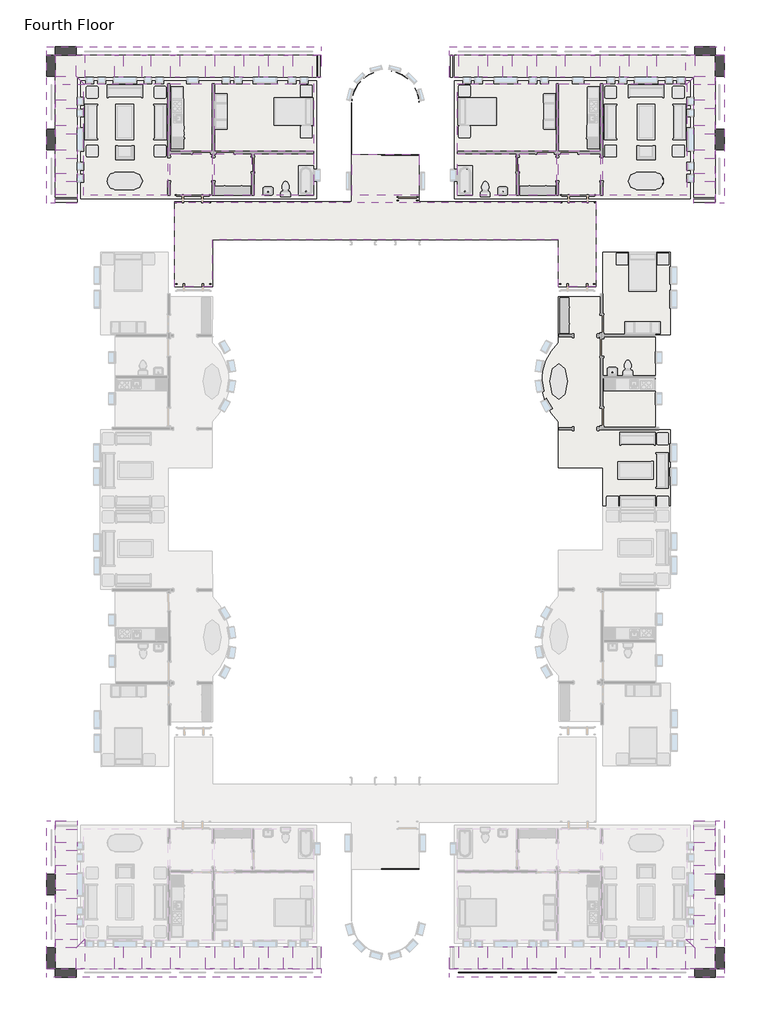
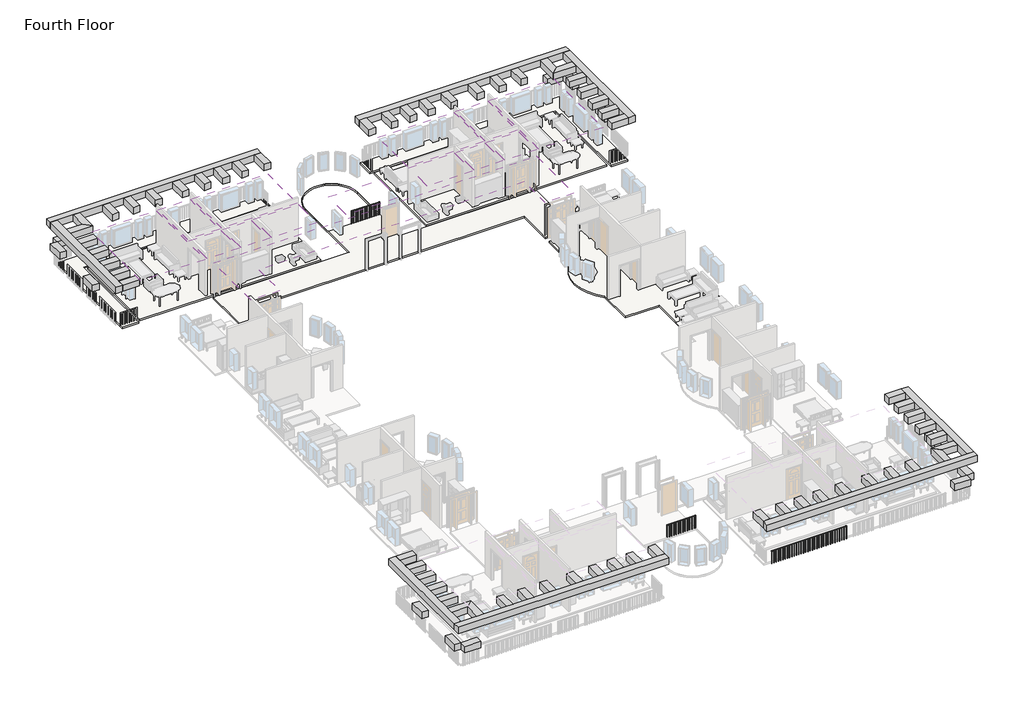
# One storey, part 4 of 6: 80 beams, 14 coverings, 6 slabs, 3 railings.
"""IFC4 building model written with IfcOpenShell, lengths in millimetres."""

from ifc_helpers import new_model, si_unit, point, frame, frame_2d, origin, place, context, project, spatial, polyline, circle_curve, trimmed, segment, composite_curve, outline, extrude, transform, mapped, element, save
from components import concrete_rectangular_beam_18_x_18_bf4eecd6, concrete_rectangular_beam_18_x_18_b74f126b, concrete_rectangular_beam_18_x_18_d2ae2ec1, concrete_rectangular_beam_18_x_18_4ba7165a, handrail_rectangular_335e7b33, handrail_rectangular_67155e74, handrail_rectangular_940b1af8

model = new_model("IFC4")

# Units and contexts
model_context = context("Model", 3, world=origin())
ifc_project = project(units=[si_unit("LENGTHUNIT", "METRE", prefix="MILLI")], contexts=[model_context])

# Site, building, storey
site = spatial("IfcSite", under=ifc_project)
building = spatial("IfcBuilding", under=site)
storey = spatial("IfcBuildingStorey", under=building, Name="Fourth Floor", Elevation=9144.0)

# Beams
placement = place(None, origin())
element("IfcBeam", 1, ObjectType="Concrete-Rectangular Beam : 18 x 18", at=placement, inside=storey, context=model_context, shape_type="SweptSolid", body=[
    extrude(outline(polyline([(569.9410437, -33825.9683133), (1027.1410437, -34283.1683133), (1027.1410437, -35349.9683133), (569.9410437, -35349.9683133), (569.9410437, -33825.9683133)])), frame((0.0, 0.0, 11734.8), z_axis=(0.0, 0.0, 1.0), x_axis=(1.0, 0.0, 0.0)), (0.0, 0.0, 1.0), 457.2),
])
element("IfcBeam", 2, ObjectType="Concrete-Rectangular Beam : 18 x 18", at=placement, inside=storey, context=model_context, shape_type="SweptSolid", body=[
    extrude(outline(polyline([(1027.1410437, -34283.1683133), (569.9410437, -33825.9683133), (2093.9410437, -33825.9683133), (2093.9410437, -34283.1683133), (1027.1410437, -34283.1683133)])), frame((0.0, 0.0, 11734.8), z_axis=(0.0, 0.0, 1.0), x_axis=(1.0, 0.0, 0.0)), (0.0, 0.0, 1.0), 457.2),
])
element("IfcBeam", 3, ObjectType="Concrete-Rectangular Beam : 18 x 18", at=placement, inside=storey, context=model_context, shape_type="SweptSolid", body=[
    extrude(outline(polyline([(-30897.4839563, -34283.1683133), (-30440.2839563, -33825.9683133), (-30440.2839563, -35349.9683133), (-30897.4839563, -35349.9683133), (-30897.4839563, -34283.1683133)])), frame((0.0, 0.0, 11734.8), z_axis=(0.0, 0.0, 1.0), x_axis=(1.0, 0.0, 0.0)), (0.0, 0.0, 1.0), 457.2),
])
element("IfcBeam", 4, ObjectType="Concrete-Rectangular Beam : 18 x 18", at=placement, inside=storey, context=model_context, shape_type="SweptSolid", body=[
    extrude(outline(polyline([(-30440.2839563, -33825.9683133), (-30897.4839563, -34283.1683133), (-31964.2839563, -34283.1683133), (-31964.2839563, -33825.9683133), (-30440.2839563, -33825.9683133)])), frame((0.0, 0.0, 11734.8), z_axis=(0.0, 0.0, 1.0), x_axis=(1.0, 0.0, 0.0)), (0.0, 0.0, 1.0), 457.2),
])
element("IfcBeam", 5, ObjectType="Concrete-Rectangular Beam : 18 x 18", at=placement, inside=storey, context=model_context, shape_type="SweptSolid", body=[
    extrude(outline(polyline([(1027.1410437, 10674.8316867), (569.9410437, 10217.6316867), (569.9410437, 11741.6316867), (1027.1410437, 11741.6316867), (1027.1410437, 10674.8316867)])), frame((0.0, 0.0, 11734.8), z_axis=(0.0, 0.0, 1.0), x_axis=(1.0, 0.0, 0.0)), (0.0, 0.0, 1.0), 457.2),
])
element("IfcBeam", 6, ObjectType="Concrete-Rectangular Beam : 18 x 18", at=placement, inside=storey, context=model_context, shape_type="SweptSolid", body=[
    extrude(outline(polyline([(569.9410437, 10217.6316867), (1027.1410437, 10674.8316867), (2093.9410437, 10674.8316867), (2093.9410437, 10217.6316867), (569.9410437, 10217.6316867)])), frame((0.0, 0.0, 11734.8), z_axis=(0.0, 0.0, 1.0), x_axis=(1.0, 0.0, 0.0)), (0.0, 0.0, 1.0), 457.2),
])
element("IfcBeam", 7, ObjectType="Concrete-Rectangular Beam : 18 x 18", at=placement, inside=storey, context=model_context, shape_type="SweptSolid", body=[
    extrude(outline(polyline([(-30440.2839563, 10217.6316867), (-30897.4839563, 10674.8316867), (-30897.4839563, 11741.6316867), (-30440.2839563, 11741.6316867), (-30440.2839563, 10217.6316867)])), frame((0.0, 0.0, 11734.8), z_axis=(0.0, 0.0, 1.0), x_axis=(1.0, 0.0, 0.0)), (0.0, 0.0, 1.0), 457.2),
])
element("IfcBeam", 8, ObjectType="Concrete-Rectangular Beam : 18 x 18", at=placement, inside=storey, context=model_context, shape_type="SweptSolid", body=[
    extrude(outline(polyline([(-30897.4839563, 10674.8316867), (-30440.2839563, 10217.6316867), (-31964.2839563, 10217.6316867), (-31964.2839563, 10674.8316867), (-30897.4839563, 10674.8316867)])), frame((0.0, 0.0, 11734.8), z_axis=(0.0, 0.0, 1.0), x_axis=(1.0, 0.0, 0.0)), (0.0, 0.0, 1.0), 457.2),
])
concrete_rectangular_beam_18_x_18_shape = concrete_rectangular_beam_18_x_18_bf4eecd6(model_context)
element("IfcBeam", 9, ObjectType="Concrete-Rectangular Beam : 18 x 18", at=placement, inside=storey, context=model_context, shape_type="MappedRepresentation", body=[
    mapped(concrete_rectangular_beam_18_x_18_shape, transform((2322.5410437, -31539.9683133, 11963.4), x_axis=(0.0, 1.0, 0.0), y_axis=(-1.0, 0.0, 0.0), z_axis=(0.0, 0.0, 1.0))),
])
element("IfcBeam", 10, ObjectType="Concrete-Rectangular Beam : 18 x 18", at=placement, inside=storey, context=model_context, shape_type="MappedRepresentation", body=[
    mapped(concrete_rectangular_beam_18_x_18_shape, transform((-32192.8839563, -31539.9683133, 11963.4), x_axis=(0.0, 1.0, 0.0), y_axis=(-1.0, 0.0, 0.0), z_axis=(0.0, 0.0, 1.0))),
])
element("IfcBeam", 11, ObjectType="Concrete-Rectangular Beam : 18 x 18", at=placement, inside=storey, context=model_context, shape_type="MappedRepresentation", body=[
    mapped(concrete_rectangular_beam_18_x_18_shape, transform((2322.5410437, 7931.6316867, 11963.4), x_axis=(0.0, -1.0, 0.0), y_axis=(1.0, 0.0, 0.0), z_axis=(0.0, 0.0, 1.0))),
])
element("IfcBeam", 12, ObjectType="Concrete-Rectangular Beam : 18 x 18", at=placement, inside=storey, context=model_context, shape_type="MappedRepresentation", body=[
    mapped(concrete_rectangular_beam_18_x_18_shape, transform((-32192.8839563, 7931.6316867, 11963.4), x_axis=(0.0, -1.0, 0.0), y_axis=(1.0, 0.0, 0.0), z_axis=(0.0, 0.0, 1.0))),
])
concrete_rectangular_beam_18_x_18_2_shape = concrete_rectangular_beam_18_x_18_b74f126b(model_context)
element("IfcBeam", 13, ObjectType="Concrete-Rectangular Beam : 18 x 18", at=placement, inside=storey, context=model_context, shape_type="MappedRepresentation", body=[
    mapped(concrete_rectangular_beam_18_x_18_2_shape, transform((-4535.4589563, -35578.5683133, 11963.4), x_axis=(1.0, 0.0, 0.0), y_axis=(0.0, 1.0, 0.0), z_axis=(0.0, 0.0, 1.0))),
])
element("IfcBeam", 14, ObjectType="Concrete-Rectangular Beam : 18 x 18", at=placement, inside=storey, context=model_context, shape_type="MappedRepresentation", body=[
    mapped(concrete_rectangular_beam_18_x_18_2_shape, transform((-25334.8839563, -35578.5683133, 11963.4), x_axis=(-1.0, 0.0, 0.0), y_axis=(0.0, -1.0, 0.0), z_axis=(0.0, 0.0, 1.0))),
])
element("IfcBeam", 15, ObjectType="Concrete-Rectangular Beam : 18 x 18", at=placement, inside=storey, context=model_context, shape_type="MappedRepresentation", body=[
    mapped(concrete_rectangular_beam_18_x_18_2_shape, transform((-4535.4589563, 11970.2316867, 11963.4), x_axis=(1.0, 0.0, 0.0), y_axis=(0.0, 1.0, 0.0), z_axis=(0.0, 0.0, 1.0))),
])
element("IfcBeam", 16, ObjectType="Concrete-Rectangular Beam : 18 x 18", at=placement, inside=storey, context=model_context, shape_type="MappedRepresentation", body=[
    mapped(concrete_rectangular_beam_18_x_18_2_shape, transform((-25334.8839563, 11970.2316867, 11963.4), x_axis=(-1.0, 0.0, 0.0), y_axis=(0.0, -1.0, 0.0), z_axis=(0.0, 0.0, 1.0))),
])
concrete_rectangular_beam_18_x_18_3_shape = concrete_rectangular_beam_18_x_18_d2ae2ec1(model_context)
element("IfcBeam", 17, ObjectType="Concrete-Rectangular Beam : 18 x 18", at=placement, inside=storey, context=model_context, shape_type="MappedRepresentation", body=[
    mapped(concrete_rectangular_beam_18_x_18_3_shape, transform((-11393.4589563, -34791.1683133, 11963.4), x_axis=(0.0, 1.0, 0.0), y_axis=(-1.0, 0.0, 0.0), z_axis=(0.0, 0.0, 1.0))),
])
element("IfcBeam", 18, ObjectType="Concrete-Rectangular Beam : 18 x 18", at=placement, inside=storey, context=model_context, shape_type="MappedRepresentation", body=[
    mapped(concrete_rectangular_beam_18_x_18_3_shape, transform((-5894.3589563, -34791.1683133, 11963.4), x_axis=(0.0, 1.0, 0.0), y_axis=(-1.0, 0.0, 0.0), z_axis=(0.0, 0.0, 1.0))),
])
element("IfcBeam", 19, ObjectType="Concrete-Rectangular Beam : 18 x 18", at=placement, inside=storey, context=model_context, shape_type="MappedRepresentation", body=[
    mapped(concrete_rectangular_beam_18_x_18_3_shape, transform((-4090.9589563, -34791.1683133, 11963.4), x_axis=(0.0, 1.0, 0.0), y_axis=(-1.0, 0.0, 0.0), z_axis=(0.0, 0.0, 1.0))),
])
element("IfcBeam", 20, ObjectType="Concrete-Rectangular Beam : 18 x 18", at=placement, inside=storey, context=model_context, shape_type="MappedRepresentation", body=[
    mapped(concrete_rectangular_beam_18_x_18_3_shape, transform((1535.1410437, -31514.5683133, 11963.4), x_axis=(-1.0, 0.0, 0.0), y_axis=(0.0, -1.0, 0.0), z_axis=(0.0, 0.0, 1.0))),
])
element("IfcBeam", 21, ObjectType="Concrete-Rectangular Beam : 18 x 18", at=placement, inside=storey, context=model_context, shape_type="MappedRepresentation", body=[
    mapped(concrete_rectangular_beam_18_x_18_3_shape, transform((1535.1410437, -30244.5683133, 11963.4), x_axis=(-1.0, 0.0, 0.0), y_axis=(0.0, -1.0, 0.0), z_axis=(0.0, 0.0, 1.0))),
])
element("IfcBeam", 22, ObjectType="Concrete-Rectangular Beam : 18 x 18", at=placement, inside=storey, context=model_context, shape_type="MappedRepresentation", body=[
    mapped(concrete_rectangular_beam_18_x_18_3_shape, transform((1535.1410437, -27958.5683133, 11963.4), x_axis=(-1.0, 0.0, 0.0), y_axis=(0.0, -1.0, 0.0), z_axis=(0.0, 0.0, 1.0))),
])
element("IfcBeam", 23, ObjectType="Concrete-Rectangular Beam : 18 x 18", at=placement, inside=storey, context=model_context, shape_type="MappedRepresentation", body=[
    mapped(concrete_rectangular_beam_18_x_18_3_shape, transform((-8643.9089563, -34791.1683133, 11963.4), x_axis=(0.0, 1.0, 0.0), y_axis=(-1.0, 0.0, 0.0), z_axis=(0.0, 0.0, 1.0))),
])
element("IfcBeam", 24, ObjectType="Concrete-Rectangular Beam : 18 x 18", at=placement, inside=storey, context=model_context, shape_type="MappedRepresentation", body=[
    mapped(concrete_rectangular_beam_18_x_18_3_shape, transform((-9904.3839563, -34791.1683133, 11963.4), x_axis=(0.0, 1.0, 0.0), y_axis=(-1.0, 0.0, 0.0), z_axis=(0.0, 0.0, 1.0))),
])
element("IfcBeam", 25, ObjectType="Concrete-Rectangular Beam : 18 x 18", at=placement, inside=storey, context=model_context, shape_type="MappedRepresentation", body=[
    mapped(concrete_rectangular_beam_18_x_18_3_shape, transform((-7383.4339563, -34791.1683133, 11963.4), x_axis=(0.0, 1.0, 0.0), y_axis=(-1.0, 0.0, 0.0), z_axis=(0.0, 0.0, 1.0))),
])
element("IfcBeam", 26, ObjectType="Concrete-Rectangular Beam : 18 x 18", at=placement, inside=storey, context=model_context, shape_type="MappedRepresentation", body=[
    mapped(concrete_rectangular_beam_18_x_18_3_shape, transform((-1182.6589563, -34791.1683133, 11963.4), x_axis=(0.0, 1.0, 0.0), y_axis=(-1.0, 0.0, 0.0), z_axis=(0.0, 0.0, 1.0))),
])
element("IfcBeam", 27, ObjectType="Concrete-Rectangular Beam : 18 x 18", at=placement, inside=storey, context=model_context, shape_type="MappedRepresentation", body=[
    mapped(concrete_rectangular_beam_18_x_18_3_shape, transform((-2601.8839563, -34791.1683133, 11963.4), x_axis=(0.0, 1.0, 0.0), y_axis=(-1.0, 0.0, 0.0), z_axis=(0.0, 0.0, 1.0))),
])
element("IfcBeam", 28, ObjectType="Concrete-Rectangular Beam : 18 x 18", at=placement, inside=storey, context=model_context, shape_type="MappedRepresentation", body=[
    mapped(concrete_rectangular_beam_18_x_18_3_shape, transform((1535.1410437, -32835.3683133, 11963.4), x_axis=(-1.0, 0.0, 0.0), y_axis=(0.0, -1.0, 0.0), z_axis=(0.0, 0.0, 1.0))),
])
element("IfcBeam", 29, ObjectType="Concrete-Rectangular Beam : 18 x 18", at=placement, inside=storey, context=model_context, shape_type="MappedRepresentation", body=[
    mapped(concrete_rectangular_beam_18_x_18_3_shape, transform((1535.1410437, -29050.7683133, 11963.4), x_axis=(-1.0, 0.0, 0.0), y_axis=(0.0, -1.0, 0.0), z_axis=(0.0, 0.0, 1.0))),
])
element("IfcBeam", 30, ObjectType="Concrete-Rectangular Beam : 18 x 18", at=placement, inside=storey, context=model_context, shape_type="MappedRepresentation", body=[
    mapped(concrete_rectangular_beam_18_x_18_3_shape, transform((-18476.8839563, -34791.1683133, 11963.4), x_axis=(0.0, 1.0, 0.0), y_axis=(-1.0, 0.0, 0.0), z_axis=(0.0, 0.0, 1.0))),
])
element("IfcBeam", 31, ObjectType="Concrete-Rectangular Beam : 18 x 18", at=placement, inside=storey, context=model_context, shape_type="MappedRepresentation", body=[
    mapped(concrete_rectangular_beam_18_x_18_3_shape, transform((-23975.9839563, -34791.1683133, 11963.4), x_axis=(0.0, 1.0, 0.0), y_axis=(-1.0, 0.0, 0.0), z_axis=(0.0, 0.0, 1.0))),
])
element("IfcBeam", 32, ObjectType="Concrete-Rectangular Beam : 18 x 18", at=placement, inside=storey, context=model_context, shape_type="MappedRepresentation", body=[
    mapped(concrete_rectangular_beam_18_x_18_3_shape, transform((-25779.3839563, -34791.1683133, 11963.4), x_axis=(0.0, 1.0, 0.0), y_axis=(-1.0, 0.0, 0.0), z_axis=(0.0, 0.0, 1.0))),
])
element("IfcBeam", 33, ObjectType="Concrete-Rectangular Beam : 18 x 18", at=placement, inside=storey, context=model_context, shape_type="MappedRepresentation", body=[
    mapped(concrete_rectangular_beam_18_x_18_3_shape, transform((-31405.4839563, -31514.5683133, 11963.4), x_axis=(1.0, 0.0, 0.0), y_axis=(0.0, 1.0, 0.0), z_axis=(0.0, 0.0, 1.0))),
])
element("IfcBeam", 34, ObjectType="Concrete-Rectangular Beam : 18 x 18", at=placement, inside=storey, context=model_context, shape_type="MappedRepresentation", body=[
    mapped(concrete_rectangular_beam_18_x_18_3_shape, transform((-31405.4839563, -30244.5683133, 11963.4), x_axis=(1.0, 0.0, 0.0), y_axis=(0.0, 1.0, 0.0), z_axis=(0.0, 0.0, 1.0))),
])
element("IfcBeam", 35, ObjectType="Concrete-Rectangular Beam : 18 x 18", at=placement, inside=storey, context=model_context, shape_type="MappedRepresentation", body=[
    mapped(concrete_rectangular_beam_18_x_18_3_shape, transform((-31405.4839563, -27958.5683133, 11963.4), x_axis=(1.0, 0.0, 0.0), y_axis=(0.0, 1.0, 0.0), z_axis=(0.0, 0.0, 1.0))),
])
element("IfcBeam", 36, ObjectType="Concrete-Rectangular Beam : 18 x 18", at=placement, inside=storey, context=model_context, shape_type="MappedRepresentation", body=[
    mapped(concrete_rectangular_beam_18_x_18_3_shape, transform((-21226.4339563, -34791.1683133, 11963.4), x_axis=(0.0, 1.0, 0.0), y_axis=(-1.0, 0.0, 0.0), z_axis=(0.0, 0.0, 1.0))),
])
element("IfcBeam", 37, ObjectType="Concrete-Rectangular Beam : 18 x 18", at=placement, inside=storey, context=model_context, shape_type="MappedRepresentation", body=[
    mapped(concrete_rectangular_beam_18_x_18_3_shape, transform((-19965.9589563, -34791.1683133, 11963.4), x_axis=(0.0, 1.0, 0.0), y_axis=(-1.0, 0.0, 0.0), z_axis=(0.0, 0.0, 1.0))),
])
element("IfcBeam", 38, ObjectType="Concrete-Rectangular Beam : 18 x 18", at=placement, inside=storey, context=model_context, shape_type="MappedRepresentation", body=[
    mapped(concrete_rectangular_beam_18_x_18_3_shape, transform((-22486.9089563, -34791.1683133, 11963.4), x_axis=(0.0, 1.0, 0.0), y_axis=(-1.0, 0.0, 0.0), z_axis=(0.0, 0.0, 1.0))),
])
element("IfcBeam", 39, ObjectType="Concrete-Rectangular Beam : 18 x 18", at=placement, inside=storey, context=model_context, shape_type="MappedRepresentation", body=[
    mapped(concrete_rectangular_beam_18_x_18_3_shape, transform((-28687.6839563, -34791.1683133, 11963.4), x_axis=(0.0, 1.0, 0.0), y_axis=(-1.0, 0.0, 0.0), z_axis=(0.0, 0.0, 1.0))),
])
element("IfcBeam", 40, ObjectType="Concrete-Rectangular Beam : 18 x 18", at=placement, inside=storey, context=model_context, shape_type="MappedRepresentation", body=[
    mapped(concrete_rectangular_beam_18_x_18_3_shape, transform((-27268.4589563, -34791.1683133, 11963.4), x_axis=(0.0, 1.0, 0.0), y_axis=(-1.0, 0.0, 0.0), z_axis=(0.0, 0.0, 1.0))),
])
element("IfcBeam", 41, ObjectType="Concrete-Rectangular Beam : 18 x 18", at=placement, inside=storey, context=model_context, shape_type="MappedRepresentation", body=[
    mapped(concrete_rectangular_beam_18_x_18_3_shape, transform((-31405.4839563, -32835.3683133, 11963.4), x_axis=(1.0, 0.0, 0.0), y_axis=(0.0, 1.0, 0.0), z_axis=(0.0, 0.0, 1.0))),
])
element("IfcBeam", 42, ObjectType="Concrete-Rectangular Beam : 18 x 18", at=placement, inside=storey, context=model_context, shape_type="MappedRepresentation", body=[
    mapped(concrete_rectangular_beam_18_x_18_3_shape, transform((-31405.4839563, -29050.7683133, 11963.4), x_axis=(1.0, 0.0, 0.0), y_axis=(0.0, 1.0, 0.0), z_axis=(0.0, 0.0, 1.0))),
])
element("IfcBeam", 43, ObjectType="Concrete-Rectangular Beam : 18 x 18", at=placement, inside=storey, context=model_context, shape_type="MappedRepresentation", body=[
    mapped(concrete_rectangular_beam_18_x_18_3_shape, transform((-11393.4589563, 11182.8316867, 11963.4), x_axis=(0.0, -1.0, 0.0), y_axis=(1.0, 0.0, 0.0), z_axis=(0.0, 0.0, 1.0))),
])
element("IfcBeam", 44, ObjectType="Concrete-Rectangular Beam : 18 x 18", at=placement, inside=storey, context=model_context, shape_type="MappedRepresentation", body=[
    mapped(concrete_rectangular_beam_18_x_18_3_shape, transform((-5894.3589563, 11182.8316867, 11963.4), x_axis=(0.0, -1.0, 0.0), y_axis=(1.0, 0.0, 0.0), z_axis=(0.0, 0.0, 1.0))),
])
element("IfcBeam", 45, ObjectType="Concrete-Rectangular Beam : 18 x 18", at=placement, inside=storey, context=model_context, shape_type="MappedRepresentation", body=[
    mapped(concrete_rectangular_beam_18_x_18_3_shape, transform((-4090.9589563, 11182.8316867, 11963.4), x_axis=(0.0, -1.0, 0.0), y_axis=(1.0, 0.0, 0.0), z_axis=(0.0, 0.0, 1.0))),
])
element("IfcBeam", 46, ObjectType="Concrete-Rectangular Beam : 18 x 18", at=placement, inside=storey, context=model_context, shape_type="MappedRepresentation", body=[
    mapped(concrete_rectangular_beam_18_x_18_3_shape, transform((1535.1410437, 7906.2316867, 11963.4), x_axis=(-1.0, 0.0, 0.0), y_axis=(0.0, -1.0, 0.0), z_axis=(0.0, 0.0, 1.0))),
])
element("IfcBeam", 47, ObjectType="Concrete-Rectangular Beam : 18 x 18", at=placement, inside=storey, context=model_context, shape_type="MappedRepresentation", body=[
    mapped(concrete_rectangular_beam_18_x_18_3_shape, transform((1535.1410437, 6636.2316867, 11963.4), x_axis=(-1.0, 0.0, 0.0), y_axis=(0.0, -1.0, 0.0), z_axis=(0.0, 0.0, 1.0))),
])
element("IfcBeam", 48, ObjectType="Concrete-Rectangular Beam : 18 x 18", at=placement, inside=storey, context=model_context, shape_type="MappedRepresentation", body=[
    mapped(concrete_rectangular_beam_18_x_18_3_shape, transform((1535.1410437, 4350.2316867, 11963.4), x_axis=(-1.0, 0.0, 0.0), y_axis=(0.0, -1.0, 0.0), z_axis=(0.0, 0.0, 1.0))),
])
element("IfcBeam", 49, ObjectType="Concrete-Rectangular Beam : 18 x 18", at=placement, inside=storey, context=model_context, shape_type="MappedRepresentation", body=[
    mapped(concrete_rectangular_beam_18_x_18_3_shape, transform((-8643.9089563, 11182.8316867, 11963.4), x_axis=(0.0, -1.0, 0.0), y_axis=(1.0, 0.0, 0.0), z_axis=(0.0, 0.0, 1.0))),
])
element("IfcBeam", 50, ObjectType="Concrete-Rectangular Beam : 18 x 18", at=placement, inside=storey, context=model_context, shape_type="MappedRepresentation", body=[
    mapped(concrete_rectangular_beam_18_x_18_3_shape, transform((-9904.3839563, 11182.8316867, 11963.4), x_axis=(0.0, -1.0, 0.0), y_axis=(1.0, 0.0, 0.0), z_axis=(0.0, 0.0, 1.0))),
])
element("IfcBeam", 51, ObjectType="Concrete-Rectangular Beam : 18 x 18", at=placement, inside=storey, context=model_context, shape_type="MappedRepresentation", body=[
    mapped(concrete_rectangular_beam_18_x_18_3_shape, transform((-7383.4339563, 11182.8316867, 11963.4), x_axis=(0.0, -1.0, 0.0), y_axis=(1.0, 0.0, 0.0), z_axis=(0.0, 0.0, 1.0))),
])
element("IfcBeam", 52, ObjectType="Concrete-Rectangular Beam : 18 x 18", at=placement, inside=storey, context=model_context, shape_type="MappedRepresentation", body=[
    mapped(concrete_rectangular_beam_18_x_18_3_shape, transform((-1182.6589563, 11182.8316867, 11963.4), x_axis=(0.0, -1.0, 0.0), y_axis=(1.0, 0.0, 0.0), z_axis=(0.0, 0.0, 1.0))),
])
element("IfcBeam", 53, ObjectType="Concrete-Rectangular Beam : 18 x 18", at=placement, inside=storey, context=model_context, shape_type="MappedRepresentation", body=[
    mapped(concrete_rectangular_beam_18_x_18_3_shape, transform((-2601.8839563, 11182.8316867, 11963.4), x_axis=(0.0, -1.0, 0.0), y_axis=(1.0, 0.0, 0.0), z_axis=(0.0, 0.0, 1.0))),
])
element("IfcBeam", 54, ObjectType="Concrete-Rectangular Beam : 18 x 18", at=placement, inside=storey, context=model_context, shape_type="MappedRepresentation", body=[
    mapped(concrete_rectangular_beam_18_x_18_3_shape, transform((1535.1410437, 9227.0316867, 11963.4), x_axis=(-1.0, 0.0, 0.0), y_axis=(0.0, -1.0, 0.0), z_axis=(0.0, 0.0, 1.0))),
])
element("IfcBeam", 55, ObjectType="Concrete-Rectangular Beam : 18 x 18", at=placement, inside=storey, context=model_context, shape_type="MappedRepresentation", body=[
    mapped(concrete_rectangular_beam_18_x_18_3_shape, transform((1535.1410437, 5442.4316867, 11963.4), x_axis=(-1.0, 0.0, 0.0), y_axis=(0.0, -1.0, 0.0), z_axis=(0.0, 0.0, 1.0))),
])
element("IfcBeam", 56, ObjectType="Concrete-Rectangular Beam : 18 x 18", at=placement, inside=storey, context=model_context, shape_type="MappedRepresentation", body=[
    mapped(concrete_rectangular_beam_18_x_18_3_shape, transform((-18476.8839563, 11182.8316867, 11963.4), x_axis=(0.0, -1.0, 0.0), y_axis=(1.0, 0.0, 0.0), z_axis=(0.0, 0.0, 1.0))),
])
element("IfcBeam", 57, ObjectType="Concrete-Rectangular Beam : 18 x 18", at=placement, inside=storey, context=model_context, shape_type="MappedRepresentation", body=[
    mapped(concrete_rectangular_beam_18_x_18_3_shape, transform((-23975.9839563, 11182.8316867, 11963.4), x_axis=(0.0, -1.0, 0.0), y_axis=(1.0, 0.0, 0.0), z_axis=(0.0, 0.0, 1.0))),
])
element("IfcBeam", 58, ObjectType="Concrete-Rectangular Beam : 18 x 18", at=placement, inside=storey, context=model_context, shape_type="MappedRepresentation", body=[
    mapped(concrete_rectangular_beam_18_x_18_3_shape, transform((-25779.3839563, 11182.8316867, 11963.4), x_axis=(0.0, -1.0, 0.0), y_axis=(1.0, 0.0, 0.0), z_axis=(0.0, 0.0, 1.0))),
])
element("IfcBeam", 59, ObjectType="Concrete-Rectangular Beam : 18 x 18", at=placement, inside=storey, context=model_context, shape_type="MappedRepresentation", body=[
    mapped(concrete_rectangular_beam_18_x_18_3_shape, transform((-31405.4839563, 7906.2316867, 11963.4), x_axis=(1.0, 0.0, 0.0), y_axis=(0.0, 1.0, 0.0), z_axis=(0.0, 0.0, 1.0))),
])
element("IfcBeam", 60, ObjectType="Concrete-Rectangular Beam : 18 x 18", at=placement, inside=storey, context=model_context, shape_type="MappedRepresentation", body=[
    mapped(concrete_rectangular_beam_18_x_18_3_shape, transform((-31405.4839563, 6636.2316867, 11963.4), x_axis=(1.0, 0.0, 0.0), y_axis=(0.0, 1.0, 0.0), z_axis=(0.0, 0.0, 1.0))),
])
element("IfcBeam", 61, ObjectType="Concrete-Rectangular Beam : 18 x 18", at=placement, inside=storey, context=model_context, shape_type="MappedRepresentation", body=[
    mapped(concrete_rectangular_beam_18_x_18_3_shape, transform((-31405.4839563, 4350.2316867, 11963.4), x_axis=(1.0, 0.0, 0.0), y_axis=(0.0, 1.0, 0.0), z_axis=(0.0, 0.0, 1.0))),
])
element("IfcBeam", 62, ObjectType="Concrete-Rectangular Beam : 18 x 18", at=placement, inside=storey, context=model_context, shape_type="MappedRepresentation", body=[
    mapped(concrete_rectangular_beam_18_x_18_3_shape, transform((-21226.4339563, 11182.8316867, 11963.4), x_axis=(0.0, -1.0, 0.0), y_axis=(1.0, 0.0, 0.0), z_axis=(0.0, 0.0, 1.0))),
])
element("IfcBeam", 63, ObjectType="Concrete-Rectangular Beam : 18 x 18", at=placement, inside=storey, context=model_context, shape_type="MappedRepresentation", body=[
    mapped(concrete_rectangular_beam_18_x_18_3_shape, transform((-19965.9589563, 11182.8316867, 11963.4), x_axis=(0.0, -1.0, 0.0), y_axis=(1.0, 0.0, 0.0), z_axis=(0.0, 0.0, 1.0))),
])
element("IfcBeam", 64, ObjectType="Concrete-Rectangular Beam : 18 x 18", at=placement, inside=storey, context=model_context, shape_type="MappedRepresentation", body=[
    mapped(concrete_rectangular_beam_18_x_18_3_shape, transform((-22486.9089563, 11182.8316867, 11963.4), x_axis=(0.0, -1.0, 0.0), y_axis=(1.0, 0.0, 0.0), z_axis=(0.0, 0.0, 1.0))),
])
element("IfcBeam", 65, ObjectType="Concrete-Rectangular Beam : 18 x 18", at=placement, inside=storey, context=model_context, shape_type="MappedRepresentation", body=[
    mapped(concrete_rectangular_beam_18_x_18_3_shape, transform((-28687.6839563, 11182.8316867, 11963.4), x_axis=(0.0, -1.0, 0.0), y_axis=(1.0, 0.0, 0.0), z_axis=(0.0, 0.0, 1.0))),
])
element("IfcBeam", 66, ObjectType="Concrete-Rectangular Beam : 18 x 18", at=placement, inside=storey, context=model_context, shape_type="MappedRepresentation", body=[
    mapped(concrete_rectangular_beam_18_x_18_3_shape, transform((-27268.4589563, 11182.8316867, 11963.4), x_axis=(0.0, -1.0, 0.0), y_axis=(1.0, 0.0, 0.0), z_axis=(0.0, 0.0, 1.0))),
])
element("IfcBeam", 67, ObjectType="Concrete-Rectangular Beam : 18 x 18", at=placement, inside=storey, context=model_context, shape_type="MappedRepresentation", body=[
    mapped(concrete_rectangular_beam_18_x_18_3_shape, transform((-31405.4839563, 9227.0316867, 11963.4), x_axis=(1.0, 0.0, 0.0), y_axis=(0.0, 1.0, 0.0), z_axis=(0.0, 0.0, 1.0))),
])
element("IfcBeam", 68, ObjectType="Concrete-Rectangular Beam : 18 x 18", at=placement, inside=storey, context=model_context, shape_type="MappedRepresentation", body=[
    mapped(concrete_rectangular_beam_18_x_18_3_shape, transform((-31405.4839563, 5442.4316867, 11963.4), x_axis=(1.0, 0.0, 0.0), y_axis=(0.0, 1.0, 0.0), z_axis=(0.0, 0.0, 1.0))),
])
concrete_rectangular_beam_18_x_18_4_shape = concrete_rectangular_beam_18_x_18_4ba7165a(model_context)
element("IfcBeam", 69, ObjectType="Concrete-Rectangular Beam : 18 x 18", at=placement, inside=storey, context=model_context, shape_type="MappedRepresentation", body=[
    mapped(concrete_rectangular_beam_18_x_18_4_shape, transform((1560.5410437, -35578.5683133, 10439.4), x_axis=(-1.0, 0.0, 0.0), y_axis=(0.0, -1.0, 0.0), z_axis=(0.0, 0.0, 1.0))),
])
element("IfcBeam", 70, ObjectType="Concrete-Rectangular Beam : 18 x 18", at=placement, inside=storey, context=model_context, shape_type="MappedRepresentation", body=[
    mapped(concrete_rectangular_beam_18_x_18_4_shape, transform((2322.5410437, -34816.5683133, 10439.4), x_axis=(0.0, 1.0, 0.0), y_axis=(-1.0, 0.0, 0.0), z_axis=(0.0, 0.0, 1.0))),
])
element("IfcBeam", 71, ObjectType="Concrete-Rectangular Beam : 18 x 18", at=placement, inside=storey, context=model_context, shape_type="MappedRepresentation", body=[
    mapped(concrete_rectangular_beam_18_x_18_4_shape, transform((2322.5410437, -31006.5683133, 10439.4), x_axis=(0.0, 1.0, 0.0), y_axis=(-1.0, 0.0, 0.0), z_axis=(0.0, 0.0, 1.0))),
])
element("IfcBeam", 72, ObjectType="Concrete-Rectangular Beam : 18 x 18", at=placement, inside=storey, context=model_context, shape_type="MappedRepresentation", body=[
    mapped(concrete_rectangular_beam_18_x_18_4_shape, transform((-31430.8839563, -35578.5683133, 10439.4), x_axis=(1.0, 0.0, 0.0), y_axis=(0.0, 1.0, 0.0), z_axis=(0.0, 0.0, 1.0))),
])
element("IfcBeam", 73, ObjectType="Concrete-Rectangular Beam : 18 x 18", at=placement, inside=storey, context=model_context, shape_type="MappedRepresentation", body=[
    mapped(concrete_rectangular_beam_18_x_18_4_shape, transform((-32192.8839563, -34816.5683133, 10439.4), x_axis=(0.0, 1.0, 0.0), y_axis=(-1.0, 0.0, 0.0), z_axis=(0.0, 0.0, 1.0))),
])
element("IfcBeam", 74, ObjectType="Concrete-Rectangular Beam : 18 x 18", at=placement, inside=storey, context=model_context, shape_type="MappedRepresentation", body=[
    mapped(concrete_rectangular_beam_18_x_18_4_shape, transform((-32192.8839563, -31006.5683133, 10439.4), x_axis=(0.0, 1.0, 0.0), y_axis=(-1.0, 0.0, 0.0), z_axis=(0.0, 0.0, 1.0))),
])
element("IfcBeam", 75, ObjectType="Concrete-Rectangular Beam : 18 x 18", at=placement, inside=storey, context=model_context, shape_type="MappedRepresentation", body=[
    mapped(concrete_rectangular_beam_18_x_18_4_shape, transform((1560.5410437, 11970.2316867, 10439.4), x_axis=(-1.0, 0.0, 0.0), y_axis=(0.0, -1.0, 0.0), z_axis=(0.0, 0.0, 1.0))),
])
element("IfcBeam", 76, ObjectType="Concrete-Rectangular Beam : 18 x 18", at=placement, inside=storey, context=model_context, shape_type="MappedRepresentation", body=[
    mapped(concrete_rectangular_beam_18_x_18_4_shape, transform((2322.5410437, 11208.2316867, 10439.4), x_axis=(0.0, -1.0, 0.0), y_axis=(1.0, 0.0, 0.0), z_axis=(0.0, 0.0, 1.0))),
])
element("IfcBeam", 77, ObjectType="Concrete-Rectangular Beam : 18 x 18", at=placement, inside=storey, context=model_context, shape_type="MappedRepresentation", body=[
    mapped(concrete_rectangular_beam_18_x_18_4_shape, transform((2322.5410437, 7398.2316867, 10439.4), x_axis=(0.0, -1.0, 0.0), y_axis=(1.0, 0.0, 0.0), z_axis=(0.0, 0.0, 1.0))),
])
element("IfcBeam", 78, ObjectType="Concrete-Rectangular Beam : 18 x 18", at=placement, inside=storey, context=model_context, shape_type="MappedRepresentation", body=[
    mapped(concrete_rectangular_beam_18_x_18_4_shape, transform((-31430.8839563, 11970.2316867, 10439.4), x_axis=(1.0, 0.0, 0.0), y_axis=(0.0, 1.0, 0.0), z_axis=(0.0, 0.0, 1.0))),
])
element("IfcBeam", 79, ObjectType="Concrete-Rectangular Beam : 18 x 18", at=placement, inside=storey, context=model_context, shape_type="MappedRepresentation", body=[
    mapped(concrete_rectangular_beam_18_x_18_4_shape, transform((-32192.8839563, 11208.2316867, 10439.4), x_axis=(0.0, -1.0, 0.0), y_axis=(1.0, 0.0, 0.0), z_axis=(0.0, 0.0, 1.0))),
])
element("IfcBeam", 80, ObjectType="Concrete-Rectangular Beam : 18 x 18", at=placement, inside=storey, context=model_context, shape_type="MappedRepresentation", body=[
    mapped(concrete_rectangular_beam_18_x_18_4_shape, transform((-32192.8839563, 7398.2316867, 10439.4), x_axis=(0.0, -1.0, 0.0), y_axis=(1.0, 0.0, 0.0), z_axis=(0.0, 0.0, 1.0))),
])

# Coverings
element("IfcCovering", 81, ObjectType="GWB on Mtl. Stud", at=placement, inside=storey, context=model_context, shape_type="SweptSolid", body=[
    extrude(outline(polyline([(-11217.2464563, 10270.0191867), (-6122.9589563, 10270.0191867), (-6122.9589563, 6787.0441867), (-11217.2464563, 6787.0441867), (-11217.2464563, 10270.0191867)])), frame((0.0, 0.0, 11734.8), z_axis=(0.0, 0.0, 1.0), x_axis=(1.0, 0.0, 0.0)), (0.0, 0.0, 1.0), 107.95),
])
element("IfcCovering", 82, ObjectType="GWB on Mtl. Stud", at=placement, inside=storey, context=model_context, shape_type="SweptSolid", body=[
    extrude(outline(polyline([(-5995.9589563, 6787.0441867), (-5995.9589563, 10270.0191867), (-3836.9589563, 10270.0191867), (-3836.9589563, 6787.0441867), (-5995.9589563, 6787.0441867)])), frame((0.0, 0.0, 11734.8), z_axis=(0.0, 0.0, 1.0), x_axis=(1.0, 0.0, 0.0)), (0.0, 0.0, 1.0), 107.95),
])
element("IfcCovering", 83, ObjectType="GWB on Mtl. Stud", at=placement, inside=storey, context=model_context, shape_type="SweptSolid", body=[
    extrude(outline(polyline([(-3709.9589563, 4526.4441867), (-3709.9589563, 10270.0191867), (622.3285437, 10270.0191867), (622.3285437, 4526.4441867), (-3709.9589563, 4526.4441867)])), frame((0.0, 0.0, 11734.8), z_axis=(0.0, 0.0, 1.0), x_axis=(1.0, 0.0, 0.0)), (0.0, 0.0, 1.0), 107.95),
])
element("IfcCovering", 84, ObjectType="GWB on Mtl. Stud", at=placement, inside=storey, context=model_context, shape_type="SweptSolid", body=[
    extrude(outline(polyline([(-3836.9589563, 4526.4441867), (-5995.9589563, 4526.4441867), (-5995.9589563, 6660.0441867), (-3836.9589563, 6660.0441867), (-3836.9589563, 4526.4441867)])), frame((0.0, 0.0, 11734.8), z_axis=(0.0, 0.0, 1.0), x_axis=(1.0, 0.0, 0.0)), (0.0, 0.0, 1.0), 107.95),
])
element("IfcCovering", 85, ObjectType="GWB on Mtl. Stud", at=placement, inside=storey, context=model_context, shape_type="SweptSolid", body=[
    extrude(outline(polyline([(-6122.9589563, 4526.4441867), (-8042.2464563, 4526.4441867), (-8042.2464563, 6660.0441867), (-6122.9589563, 6660.0441867), (-6122.9589563, 4526.4441867)])), frame((0.0, 0.0, 11734.8), z_axis=(0.0, 0.0, 1.0), x_axis=(1.0, 0.0, 0.0)), (0.0, 0.0, 1.0), 107.95),
])
element("IfcCovering", 86, ObjectType="GWB on Mtl. Stud", at=placement, inside=storey, context=model_context, shape_type="SweptSolid", body=[
    extrude(outline(polyline([(-8169.2464563, 6660.0441867), (-8169.2464563, 4526.4441867), (-11217.2464563, 4526.4441867), (-11217.2464563, 6660.0441867), (-8169.2464563, 6660.0441867)])), frame((0.0, 0.0, 11734.8), z_axis=(0.0, 0.0, 1.0), x_axis=(1.0, 0.0, 0.0)), (0.0, 0.0, 1.0), 107.95),
])
element("IfcCovering", 87, ObjectType="GWB on Mtl. Stud", at=placement, inside=storey, context=model_context, shape_type="SweptSolid", body=[
    extrude(outline(polyline([(-13206.3839563, 4526.4441867), (-16663.9589563, 4526.4441867), (-16663.9589563, 6636.2316867), (-13206.3839563, 6636.2316867), (-13206.3839563, 4526.4441867)])), frame((0.0, 0.0, 11582.4), z_axis=(0.0, 0.0, 1.0), x_axis=(1.0, 0.0, 0.0)), (0.0, 0.0, 1.0), 107.95),
])
element("IfcCovering", 88, ObjectType="GWB on Mtl. Stud", at=placement, inside=storey, context=model_context, shape_type="SweptSolid", body=[
    extrude(outline(polyline([(-5995.9589563, -197.9558133), (-5995.9589563, 2240.4441867), (-23874.3839563, 2240.4441867), (-23874.3839563, -197.9558133), (-25807.9589563, -197.9558133), (-25807.9589563, 4174.0191867), (-4062.3839563, 4174.0191867), (-4062.3839563, -197.9558133), (-5995.9589563, -197.9558133)])), frame((0.0, 0.0, 11582.4), z_axis=(0.0, 0.0, 1.0), x_axis=(1.0, 0.0, 0.0)), (0.0, 0.0, 1.0), 107.95),
])
element("IfcCovering", 89, ObjectType="GWB on Mtl. Stud", at=placement, inside=storey, context=model_context, shape_type="SweptSolid", body=[
    extrude(outline(polyline([(-18653.0964563, 10270.0191867), (-18653.0964563, 6787.0441867), (-23747.3839563, 6787.0441867), (-23747.3839563, 10270.0191867), (-18653.0964563, 10270.0191867)])), frame((0.0, 0.0, 11734.8), z_axis=(0.0, 0.0, 1.0), x_axis=(1.0, 0.0, 0.0)), (0.0, 0.0, 1.0), 107.95),
])
element("IfcCovering", 90, ObjectType="GWB on Mtl. Stud", at=placement, inside=storey, context=model_context, shape_type="SweptSolid", body=[
    extrude(outline(polyline([(-23874.3839563, 6787.0441867), (-26033.3839563, 6787.0441867), (-26033.3839563, 10270.0191867), (-23874.3839563, 10270.0191867), (-23874.3839563, 6787.0441867)])), frame((0.0, 0.0, 11734.8), z_axis=(0.0, 0.0, 1.0), x_axis=(1.0, 0.0, 0.0)), (0.0, 0.0, 1.0), 107.95),
])
element("IfcCovering", 91, ObjectType="GWB on Mtl. Stud", at=placement, inside=storey, context=model_context, shape_type="SweptSolid", body=[
    extrude(outline(polyline([(-26160.3839563, 4526.4441867), (-30492.6714563, 4526.4441867), (-30492.6714563, 10270.0191867), (-26160.3839563, 10270.0191867), (-26160.3839563, 4526.4441867)])), frame((0.0, 0.0, 11734.8), z_axis=(0.0, 0.0, 1.0), x_axis=(1.0, 0.0, 0.0)), (0.0, 0.0, 1.0), 107.95),
])
element("IfcCovering", 92, ObjectType="GWB on Mtl. Stud", at=placement, inside=storey, context=model_context, shape_type="SweptSolid", body=[
    extrude(outline(polyline([(-26033.3839563, 4526.4441867), (-26033.3839563, 6660.0441867), (-23874.3839563, 6660.0441867), (-23874.3839563, 4526.4441867), (-26033.3839563, 4526.4441867)])), frame((0.0, 0.0, 11734.8), z_axis=(0.0, 0.0, 1.0), x_axis=(1.0, 0.0, 0.0)), (0.0, 0.0, 1.0), 107.95),
])
element("IfcCovering", 93, ObjectType="GWB on Mtl. Stud", at=placement, inside=storey, context=model_context, shape_type="SweptSolid", body=[
    extrude(outline(polyline([(-23747.3839563, 4526.4441867), (-23747.3839563, 6660.0441867), (-21828.0964563, 6660.0441867), (-21828.0964563, 4526.4441867), (-23747.3839563, 4526.4441867)])), frame((0.0, 0.0, 11734.8), z_axis=(0.0, 0.0, 1.0), x_axis=(1.0, 0.0, 0.0)), (0.0, 0.0, 1.0), 107.95),
])
element("IfcCovering", 94, ObjectType="GWB on Mtl. Stud", at=placement, inside=storey, context=model_context, shape_type="SweptSolid", body=[
    extrude(outline(polyline([(-21701.0964563, 6660.0441867), (-18653.0964563, 6660.0441867), (-18653.0964563, 4526.4441867), (-21701.0964563, 4526.4441867), (-21701.0964563, 6660.0441867)])), frame((0.0, 0.0, 11734.8), z_axis=(0.0, 0.0, 1.0), x_axis=(1.0, 0.0, 0.0)), (0.0, 0.0, 1.0), 107.95),
])

# Railings
handrail_rectangular_shape = handrail_rectangular_335e7b33(model_context)
element("IfcRailing", 95, ObjectType="Handrail - Rectangular", at=placement, inside=storey, context=model_context, shape_type="MappedRepresentation", body=[
    mapped(handrail_rectangular_shape, transform((0.0, 0.0, 0.0), x_axis=(1.0, 0.0, 0.0), y_axis=(0.0, 1.0, 0.0), z_axis=(0.0, 0.0, 1.0))),
])
handrail_rectangular_2_shape = handrail_rectangular_67155e74(model_context)
element("IfcRailing", 96, ObjectType="Handrail - Rectangular", at=placement, inside=storey, context=model_context, shape_type="MappedRepresentation", body=[
    mapped(handrail_rectangular_2_shape, transform((0.0, 0.0, 0.0), x_axis=(1.0, 0.0, 0.0), y_axis=(0.0, 1.0, 0.0), z_axis=(0.0, 0.0, 1.0))),
])
handrail_rectangular_3_shape = handrail_rectangular_940b1af8(model_context)
element("IfcRailing", 97, ObjectType="Handrail - Rectangular", at=placement, inside=storey, context=model_context, shape_type="MappedRepresentation", body=[
    mapped(handrail_rectangular_3_shape, transform((0.0, 0.0, 0.0), x_axis=(1.0, 0.0, 0.0), y_axis=(0.0, 1.0, 0.0), z_axis=(0.0, 0.0, 1.0))),
])

# Slabs
element("IfcSlab", 98, ObjectType="LW Concrete on Metal Deck", at=placement, inside=storey, context=model_context, shape_type="SweptSolid", body=[
    extrude(outline(polyline([(787.4285437, 10435.1191867), (787.4285437, 4361.3441867), (-11382.3464563, 4361.3441867), (-11382.3464563, 10435.1191867), (787.4285437, 10435.1191867)])), frame((0.0, 0.0, 9039.225), z_axis=(0.0, 0.0, 1.0), x_axis=(1.0, 0.0, 0.0)), (0.0, 0.0, 1.0), 104.775),
])
element("IfcSlab", 99, ObjectType="LW Concrete on Metal Deck", at=placement, inside=storey, context=model_context, shape_type="SweptSolid", body=[
    extrude(outline(composite_curve([segment(polyline([(-13193.6839563, 9227.0316867), (-13193.6839563, 4186.7191867), (-4062.3839563, 4186.7191867), (-4062.3839563, -197.9558133), (-6008.6589563, -197.9558133), (-6008.6589563, 2227.7441867), (-23861.6839563, 2227.7441867), (-23861.6839563, -197.9558133), (-25807.9589563, -197.9558133), (-25807.9589563, 4186.7191867), (-16676.6589563, 4186.7191867), (-16676.6589563, 9227.0316867)]), True, "CONTINUOUS"), segment(trimmed(circle_curve(frame_2d((-14935.1714563, 9227.0316867)), 1741.4875), [point((-16676.6589563, 9227.0316867))], [point((-13193.6839563, 9227.0316867))], False, "CARTESIAN"), True, "CONTINUOUS")], self_intersect=False), holes=[composite_curve([segment(polyline([(-16663.9589563, 6636.2316867), (-13206.3839563, 6636.2316867), (-13206.3839563, 9227.0316867)]), True, "CONTINUOUS"), segment(trimmed(circle_curve(frame_2d((-14935.1714563, 9227.0316867)), 1728.7875), [point((-13206.3839563, 9227.0316867))], [point((-16663.9589563, 9227.0316867))], True, "CARTESIAN"), True, "CONTINUOUS"), segment(polyline([(-16663.9589563, 9227.0316867), (-16663.9589563, 6636.2316867)]), True, "CONTINUOUS")], self_intersect=False)]), frame((0.0, 0.0, 9039.225), z_axis=(0.0, 0.0, 1.0), x_axis=(1.0, 0.0, 0.0)), (0.0, 0.0, 1.0), 104.775),
])
element("IfcSlab", 100, ObjectType="LW Concrete on Metal Deck", at=placement, inside=storey, context=model_context, shape_type="SweptSolid", body=[
    extrude(outline(polyline([(-30657.7714563, 10435.1191867), (-18487.9964563, 10435.1191867), (-18487.9964563, 4361.3441867), (-30657.7714563, 4361.3441867), (-30657.7714563, 10435.1191867)])), frame((0.0, 0.0, 9039.225), z_axis=(0.0, 0.0, 1.0), x_axis=(1.0, 0.0, 0.0)), (0.0, 0.0, 1.0), 104.775),
])
element("IfcSlab", 101, ObjectType="LW Concrete on Metal Deck", at=placement, inside=storey, context=model_context, shape_type="SweptSolid", body=[
    extrude(outline(composite_curve([segment(polyline([(-240.9230199, 1586.7324761), (-237.701615, -2658.2413016), (-999.7013956, -2658.8195643), (-995.9836486, -7557.8431536), (-233.983868, -7557.264891), (-230.7624631, -11802.2386686), (-3713.7364602, -11804.8818109), (-3715.4712482, -9518.8824691), (-6001.47059, -9520.6172571), (-6003.2619221, -7160.1074386)]), True, "CONTINUOUS"), segment(trimmed(circle_curve(frame_2d((-3991.621775, -5110.6032635)), 2871.7875), [point((-6003.2619221, -7160.1074386))], [point((-6006.3702387, -3064.1546144))], False, "CARTESIAN"), True, "CONTINUOUS"), segment(polyline([(-6006.3702387, -3064.1546144), (-6008.1615708, -703.6447959), (-3722.162229, -701.9100079), (-3723.897017, 1584.0893338), (-240.9230199, 1586.7324761)]), True, "CONTINUOUS")], self_intersect=False)), frame((0.0, 0.0, 9039.225), z_axis=(0.0, 0.0, 1.0), x_axis=(1.0, 0.0, 0.0)), (0.0, 0.0, 1.0), 104.775),
])
element("IfcSlab", 102, ObjectType="LW Concrete on Metal Deck", at=placement, inside=storey, context=model_context, shape_type="SweptSolid", body=[
    extrude(outline(polyline([(2093.9410437, 11741.6316867), (2093.9410437, 4174.0191867), (974.7535437, 4174.0191867), (974.7535437, 10622.4441867), (-11569.6714563, 10622.4441867), (-11569.6714563, 11741.6316867), (2093.9410437, 11741.6316867)])), frame((0.0, 0.0, 9039.225), z_axis=(0.0, 0.0, 1.0), x_axis=(1.0, 0.0, 0.0)), (0.0, 0.0, 1.0), 104.775),
])
element("IfcSlab", 103, ObjectType="LW Concrete on Metal Deck", at=placement, inside=storey, context=model_context, shape_type="SweptSolid", body=[
    extrude(outline(polyline([(-31964.2839563, 11741.6316867), (-18300.6714563, 11741.6316867), (-18300.6714563, 10622.4441867), (-30845.0964563, 10622.4441867), (-30845.0964563, 4174.0191867), (-31964.2839563, 4174.0191867), (-31964.2839563, 11741.6316867)])), frame((0.0, 0.0, 9039.225), z_axis=(0.0, 0.0, 1.0), x_axis=(1.0, 0.0, 0.0)), (0.0, 0.0, 1.0), 104.775),
])

save(model, "model.ifc")
